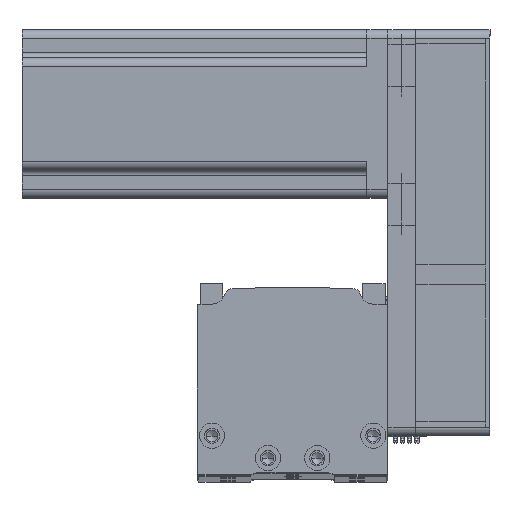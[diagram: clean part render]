
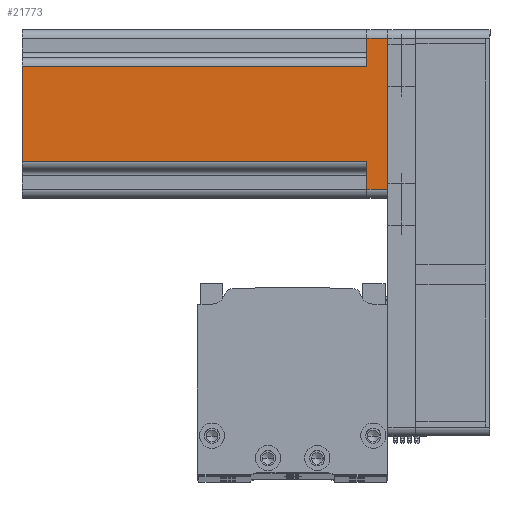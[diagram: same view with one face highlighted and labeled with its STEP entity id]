
A CAD part, top view. The second image highlights one B-rep face of the part: STEP entity #21773.
In plain terms, the highlighted planar face has unit normal (0, 0, 1) as drawn and (0, -1, 0) by its records, which use the part's own axes.
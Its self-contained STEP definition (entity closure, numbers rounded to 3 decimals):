
#566 = ORIENTED_EDGE ( 'NONE', *, *, #54433, .F. ) ;
#862 = LINE ( 'NONE', #16085, #43688 ) ;
#1666 = CARTESIAN_POINT ( 'NONE',  ( -27., -30., 0. ) ) ;
#2307 = DIRECTION ( 'NONE',  ( 0., 1., 0. ) ) ;
#4580 = CARTESIAN_POINT ( 'NONE',  ( 30., -30., 0. ) ) ;
#5043 = DIRECTION ( 'NONE',  ( 1., 0., 0. ) ) ;
#5619 = CARTESIAN_POINT ( 'NONE',  ( 20., -30., 7.5 ) ) ;
#5764 = VERTEX_POINT ( 'NONE', #34274 ) ;
#5988 = ORIENTED_EDGE ( 'NONE', *, *, #8146, .T. ) ;
#6519 = CARTESIAN_POINT ( 'NONE',  ( 17., -30., 130.7 ) ) ;
#7117 = VERTEX_POINT ( 'NONE', #11806 ) ;
#8146 = EDGE_CURVE ( 'NONE', #7117, #52848, #28598, .T. ) ;
#9044 = VERTEX_POINT ( 'NONE', #25461 ) ;
#9352 = VECTOR ( 'NONE', #5043, 1000. ) ;
#11298 = CARTESIAN_POINT ( 'NONE',  ( -17., -30., 130.7 ) ) ;
#11680 = VECTOR ( 'NONE', #53748, 1000. ) ;
#11806 = CARTESIAN_POINT ( 'NONE',  ( -17., -30., 130.7 ) ) ;
#12017 = CARTESIAN_POINT ( 'NONE',  ( -27., -30., 130.7 ) ) ;
#12705 = VERTEX_POINT ( 'NONE', #32887 ) ;
#13216 = DIRECTION ( 'NONE',  ( 0., 0., -1. ) ) ;
#14819 = CARTESIAN_POINT ( 'NONE',  ( -27., -30., 7.5 ) ) ;
#15506 = EDGE_CURVE ( 'NONE', #5764, #12705, #35511, .T. ) ;
#16085 = CARTESIAN_POINT ( 'NONE',  ( 27., -30., 130.7 ) ) ;
#17551 = VECTOR ( 'NONE', #50851, 1000. ) ;
#17652 = FACE_OUTER_BOUND ( 'NONE', #46864, .T. ) ;
#17744 = ORIENTED_EDGE ( 'NONE', *, *, #25142, .F. ) ;
#19754 = LINE ( 'NONE', #5619, #31025 ) ;
#20437 = ORIENTED_EDGE ( 'NONE', *, *, #15506, .T. ) ;
#21008 = EDGE_CURVE ( 'NONE', #9044, #5764, #19754, .T. ) ;
#21087 = VERTEX_POINT ( 'NONE', #1666 ) ;
#21773 = ADVANCED_FACE ( 'NONE', ( #17652 ), #23541, .F. ) ;
#23541 = PLANE ( 'NONE',  #45810 ) ;
#23893 = CARTESIAN_POINT ( 'NONE',  ( 30., -30., 130.7 ) ) ;
#25142 = EDGE_CURVE ( 'NONE', #42114, #52848, #53502, .T. ) ;
#25461 = CARTESIAN_POINT ( 'NONE',  ( 27., -30., 7.5 ) ) ;
#26649 = CARTESIAN_POINT ( 'NONE',  ( 27., -30., 0. ) ) ;
#27625 = CARTESIAN_POINT ( 'NONE',  ( -17., -30., 7.5 ) ) ;
#28024 = CARTESIAN_POINT ( 'NONE',  ( 30., -30., 130.7 ) ) ;
#28598 = LINE ( 'NONE', #11298, #48603 ) ;
#30670 = CARTESIAN_POINT ( 'NONE',  ( -20., -30., 7.5 ) ) ;
#31025 = VECTOR ( 'NONE', #39811, 1000. ) ;
#32225 = DIRECTION ( 'NONE',  ( -1., 0., 0. ) ) ;
#32887 = CARTESIAN_POINT ( 'NONE',  ( 17., -30., 130.7 ) ) ;
#33888 = ORIENTED_EDGE ( 'NONE', *, *, #21008, .T. ) ;
#34274 = CARTESIAN_POINT ( 'NONE',  ( 17., -30., 7.5 ) ) ;
#35511 = LINE ( 'NONE', #6519, #54303 ) ;
#35657 = LINE ( 'NONE', #23893, #11680 ) ;
#35747 = VECTOR ( 'NONE', #47398, 1000. ) ;
#39811 = DIRECTION ( 'NONE',  ( -1., 0., 0. ) ) ;
#40773 = ORIENTED_EDGE ( 'NONE', *, *, #45899, .T. ) ;
#41408 = VERTEX_POINT ( 'NONE', #26649 ) ;
#42114 = VERTEX_POINT ( 'NONE', #14819 ) ;
#43688 = VECTOR ( 'NONE', #50200, 1000. ) ;
#44131 = ORIENTED_EDGE ( 'NONE', *, *, #54532, .T. ) ;
#45810 = AXIS2_PLACEMENT_3D ( 'NONE', #28024, #2307, #32225 ) ;
#45899 = EDGE_CURVE ( 'NONE', #21087, #41408, #47159, .T. ) ;
#46864 = EDGE_LOOP ( 'NONE', ( #566, #5988, #17744, #53360, #40773, #44131, #33888, #20437 ) ) ;
#47040 = EDGE_CURVE ( 'NONE', #42114, #21087, #51558, .T. ) ;
#47159 = LINE ( 'NONE', #4580, #35747 ) ;
#47398 = DIRECTION ( 'NONE',  ( 1., 0., 0. ) ) ;
#48603 = VECTOR ( 'NONE', #13216, 1000. ) ;
#50200 = DIRECTION ( 'NONE',  ( 0., 0., 1. ) ) ;
#50851 = DIRECTION ( 'NONE',  ( 0., 0., -1. ) ) ;
#51558 = LINE ( 'NONE', #12017, #17551 ) ;
#52848 = VERTEX_POINT ( 'NONE', #27625 ) ;
#53360 = ORIENTED_EDGE ( 'NONE', *, *, #47040, .T. ) ;
#53502 = LINE ( 'NONE', #30670, #9352 ) ;
#53626 = DIRECTION ( 'NONE',  ( 0., 0., 1. ) ) ;
#53748 = DIRECTION ( 'NONE',  ( 1., 0., 0. ) ) ;
#54303 = VECTOR ( 'NONE', #53626, 1000. ) ;
#54433 = EDGE_CURVE ( 'NONE', #7117, #12705, #35657, .T. ) ;
#54532 = EDGE_CURVE ( 'NONE', #41408, #9044, #862, .T. ) ;
